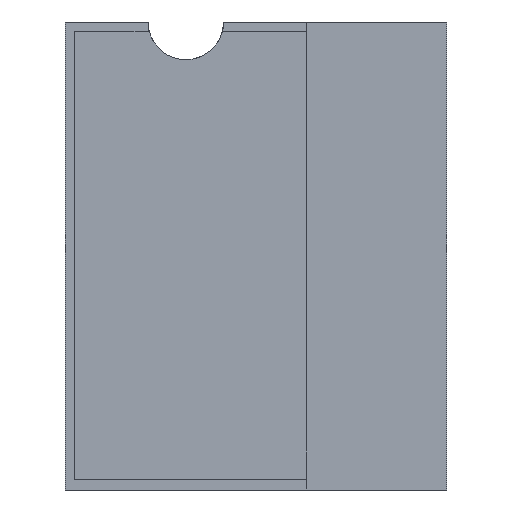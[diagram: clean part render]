
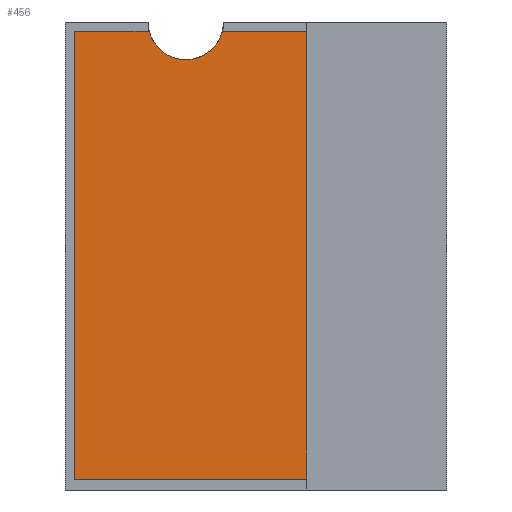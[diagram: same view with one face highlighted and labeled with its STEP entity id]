
A CAD part, left-side view. The second image highlights one B-rep face of the part: STEP entity #456.
In plain terms, the highlighted planar face has unit normal (-1, 0, 0).
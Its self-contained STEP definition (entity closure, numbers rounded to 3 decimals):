
#19=PLANE('',#484);
#41=FACE_OUTER_BOUND('',#63,.T.);
#63=EDGE_LOOP('',(#352,#353,#354,#355,#356,#357,#358,#359,#360,#361));
#104=LINE('',#677,#166);
#105=LINE('',#679,#167);
#106=LINE('',#681,#168);
#107=LINE('',#683,#169);
#108=LINE('',#685,#170);
#109=LINE('',#687,#171);
#110=LINE('',#689,#172);
#111=LINE('',#691,#173);
#112=LINE('',#692,#174);
#166=VECTOR('',#547,24.831);
#167=VECTOR('',#548,148.432);
#168=VECTOR('',#549,76.954);
#169=VECTOR('',#550,21.477);
#170=VECTOR('',#551,10.);
#171=VECTOR('',#552,105.);
#172=VECTOR('',#553,10.);
#173=VECTOR('',#554,21.954);
#174=VECTOR('',#555,27.877);
#207=CIRCLE('',#479,12.5);
#214=VERTEX_POINT('',#630);
#215=VERTEX_POINT('',#632);
#232=VERTEX_POINT('',#676);
#233=VERTEX_POINT('',#678);
#234=VERTEX_POINT('',#680);
#235=VERTEX_POINT('',#682);
#236=VERTEX_POINT('',#684);
#237=VERTEX_POINT('',#686);
#238=VERTEX_POINT('',#688);
#239=VERTEX_POINT('',#690);
#258=EDGE_CURVE('',#215,#214,#207,.T.);
#280=EDGE_CURVE('',#232,#214,#104,.T.);
#281=EDGE_CURVE('',#233,#232,#105,.T.);
#282=EDGE_CURVE('',#234,#233,#106,.T.);
#283=EDGE_CURVE('',#234,#235,#107,.T.);
#284=EDGE_CURVE('',#235,#236,#108,.T.);
#285=EDGE_CURVE('',#237,#236,#109,.T.);
#286=EDGE_CURVE('',#238,#237,#110,.T.);
#287=EDGE_CURVE('',#239,#238,#111,.T.);
#288=EDGE_CURVE('',#215,#239,#112,.T.);
#352=ORIENTED_EDGE('',*,*,#258,.T.);
#353=ORIENTED_EDGE('',*,*,#280,.F.);
#354=ORIENTED_EDGE('',*,*,#281,.F.);
#355=ORIENTED_EDGE('',*,*,#282,.F.);
#356=ORIENTED_EDGE('',*,*,#283,.T.);
#357=ORIENTED_EDGE('',*,*,#284,.T.);
#358=ORIENTED_EDGE('',*,*,#285,.F.);
#359=ORIENTED_EDGE('',*,*,#286,.F.);
#360=ORIENTED_EDGE('',*,*,#287,.F.);
#361=ORIENTED_EDGE('',*,*,#288,.F.);
#456=ADVANCED_FACE('',(#41),#19,.T.);
#479=AXIS2_PLACEMENT_3D('',#633,#514,#515);
#484=AXIS2_PLACEMENT_3D('',#675,#545,#546);
#514=DIRECTION('center_axis',(1.,0.,0.));
#515=DIRECTION('ref_axis',(0.,-1.,0.));
#545=DIRECTION('center_axis',(-1.,0.,0.));
#546=DIRECTION('ref_axis',(0.,0.,1.));
#547=DIRECTION('',(0.,-1.,0.));
#548=DIRECTION('',(0.,0.,1.));
#549=DIRECTION('',(0.,1.,0.));
#550=DIRECTION('',(0.,0.,1.));
#551=DIRECTION('',(0.,-1.,0.));
#552=DIRECTION('',(0.,0.,-1.));
#553=DIRECTION('',(0.,-1.,0.));
#554=DIRECTION('',(0.,0.,-1.));
#555=DIRECTION('',(0.,-1.,0.));
#630=CARTESIAN_POINT('',(-13.,62.123,-3.046));
#632=CARTESIAN_POINT('',(-13.,37.877,-3.046));
#633=CARTESIAN_POINT('Origin',(-13.,50.,0.));
#675=CARTESIAN_POINT('Origin',(-13.,0.,-155.));
#676=CARTESIAN_POINT('',(-13.,86.954,-3.046));
#677=CARTESIAN_POINT('',(-13.,10.,-3.046));
#678=CARTESIAN_POINT('',(-13.,86.954,-151.477));
#679=CARTESIAN_POINT('',(-13.,86.954,-3.046));
#680=CARTESIAN_POINT('',(-13.,10.,-151.477));
#681=CARTESIAN_POINT('',(-13.,86.954,-151.477));
#682=CARTESIAN_POINT('',(-13.,10.,-130.));
#683=CARTESIAN_POINT('',(-13.,10.,-77.5));
#684=CARTESIAN_POINT('',(-13.,0.,-130.));
#685=CARTESIAN_POINT('',(-13.,10.,-130.));
#686=CARTESIAN_POINT('',(-13.,0.,-25.));
#687=CARTESIAN_POINT('',(-13.,0.,-103.75));
#688=CARTESIAN_POINT('',(-13.,10.,-25.));
#689=CARTESIAN_POINT('',(-13.,10.,-25.));
#690=CARTESIAN_POINT('',(-13.,10.,-3.046));
#691=CARTESIAN_POINT('',(-13.,10.,-151.477));
#692=CARTESIAN_POINT('',(-13.,10.,-3.046));
